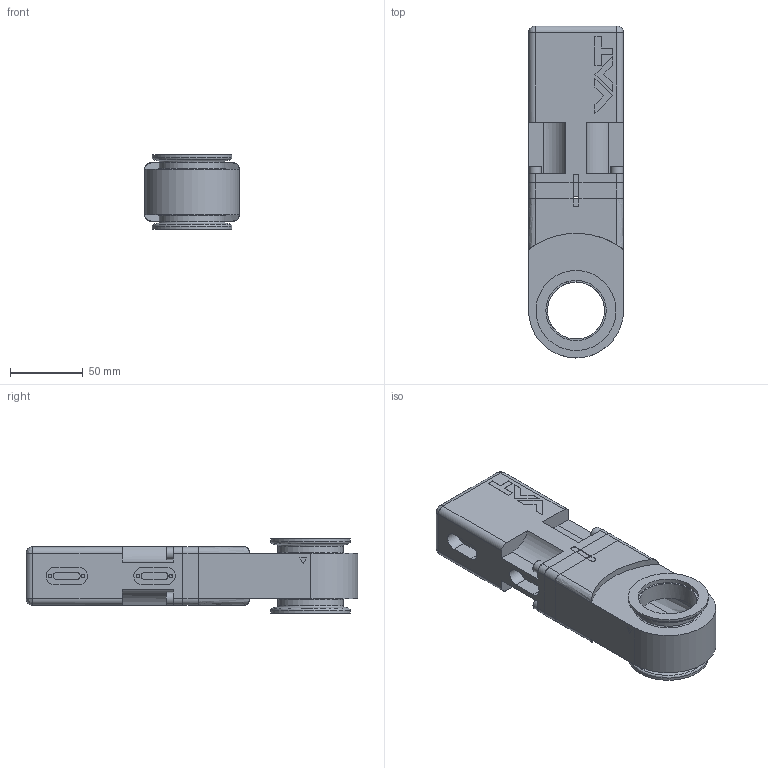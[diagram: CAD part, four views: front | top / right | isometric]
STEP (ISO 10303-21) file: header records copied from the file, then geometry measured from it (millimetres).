
FILE_DESCRIPTION((''),'2;1');
FILE_NAME('n:\work\wid\217450.stp','2005-06-23T17:07:55',('User'),( 'SDRC'),'I-DEAS Master Series 9','UNIX','Yes');
FILE_SCHEMA(('CONFIG_CONTROL_DESIGN'));
Length unit declared in the file: millimetre
Assembly tree (7 placements, depth 0):
Bounding box: 65 x 227.6 x 50.9 mm (x, y, z)
Volume: 307517.4 mm3; surface area: 100940.8 mm2
Topology: 15 solids, 15 shells, 408 faces, 965 edges, 622 vertices
Faces by surface type: bspline 408
Entity records: 12351 total; most frequent: CARTESIAN_POINT 6562, ORIENTED_EDGE 1676, EDGE_CURVE 838, VERTEX_POINT 545, EDGE_LOOP 439, QUASI_UNIFORM_CURVE 373, FACE_OUTER_BOUND 351, ADVANCED_FACE 351
